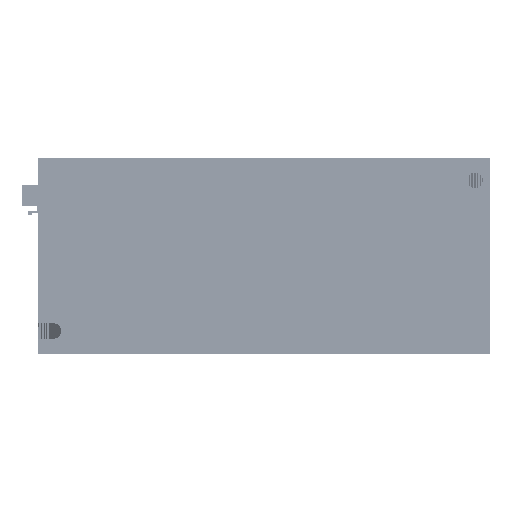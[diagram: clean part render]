
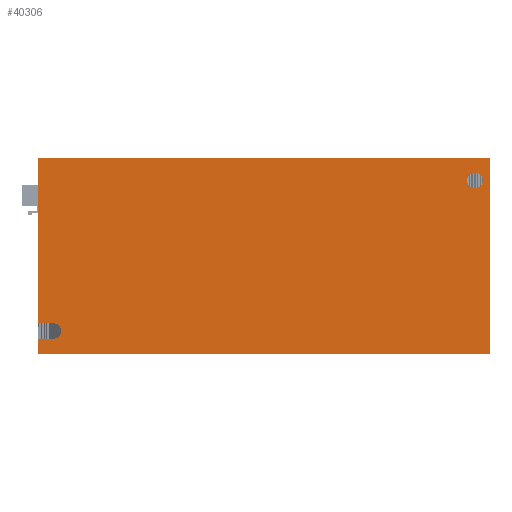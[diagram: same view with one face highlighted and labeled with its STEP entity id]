
A CAD part, top view. The second image highlights one B-rep face of the part: STEP entity #40306.
In plain terms, the highlighted planar face has unit normal (0, 0, 1).
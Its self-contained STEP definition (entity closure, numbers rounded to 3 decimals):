
#7941=DIRECTION('',(-1.,0.,0.));
#7942=VECTOR('',#7941,150.);
#7943=CARTESIAN_POINT('',(44.414,33.069,258.));
#7944=LINE('',#7943,#7942);
#10037=DIRECTION('',(0.,-1.,0.));
#10038=VECTOR('',#10037,65.);
#10039=CARTESIAN_POINT('',(44.414,33.069,258.));
#10040=LINE('',#10039,#10038);
#10041=CARTESIAN_POINT('',(-100.586,-24.431,258.));
#10042=DIRECTION('',(0.,0.,1.));
#10043=DIRECTION('',(0.,-1.,0.));
#10044=AXIS2_PLACEMENT_3D('',#10041,#10042,#10043);
#10046=CARTESIAN_POINT('',(-100.586,-24.431,258.));
#10047=DIRECTION('',(0.,0.,1.));
#10048=DIRECTION('',(1.,0.,0.));
#10049=AXIS2_PLACEMENT_3D('',#10046,#10047,#10048);
#10051=DIRECTION('',(-1.,0.,0.));
#10052=VECTOR('',#10051,5.);
#10053=CARTESIAN_POINT('',(-100.586,-21.831,258.));
#10054=LINE('',#10053,#10052);
#10055=DIRECTION('',(0.,1.,0.));
#10056=VECTOR('',#10055,54.9);
#10057=CARTESIAN_POINT('',(-105.586,-21.831,258.));
#10058=LINE('',#10057,#10056);
#10059=CARTESIAN_POINT('',(39.414,25.569,258.));
#10060=DIRECTION('',(0.,0.,1.));
#10061=DIRECTION('',(1.,0.,0.));
#10062=AXIS2_PLACEMENT_3D('',#10059,#10060,#10061);
#10064=CARTESIAN_POINT('',(39.414,25.569,258.));
#10065=DIRECTION('',(0.,0.,1.));
#10066=DIRECTION('',(-1.,0.,0.));
#10067=AXIS2_PLACEMENT_3D('',#10064,#10065,#10066);
#10069=DIRECTION('',(1.,0.,0.));
#10070=VECTOR('',#10069,150.);
#10071=CARTESIAN_POINT('',(-105.586,-31.931,258.));
#10072=LINE('',#10071,#10070);
#10129=DIRECTION('',(-1.,0.,0.));
#10130=VECTOR('',#10129,5.);
#10131=CARTESIAN_POINT('',(-100.586,-27.031,258.));
#10132=LINE('',#10131,#10130);
#10133=DIRECTION('',(0.,1.,0.));
#10134=VECTOR('',#10133,4.9);
#10135=CARTESIAN_POINT('',(-105.586,-31.931,258.));
#10136=LINE('',#10135,#10134);
#19399=CARTESIAN_POINT('',(-105.586,-21.831,258.));
#19400=CARTESIAN_POINT('',(-105.586,33.069,258.));
#19401=VERTEX_POINT('',#19399);
#19402=VERTEX_POINT('',#19400);
#19948=CARTESIAN_POINT('',(44.414,33.069,258.));
#19949=VERTEX_POINT('',#19948);
#19950=CARTESIAN_POINT('',(44.414,-31.931,258.));
#19951=VERTEX_POINT('',#19950);
#20539=CARTESIAN_POINT('',(-97.986,-24.431,258.));
#20540=VERTEX_POINT('',#20539);
#20541=CARTESIAN_POINT('',(-100.586,-27.031,258.));
#20542=VERTEX_POINT('',#20541);
#20543=CARTESIAN_POINT('',(-100.586,-21.831,258.));
#20544=VERTEX_POINT('',#20543);
#20545=CARTESIAN_POINT('',(-105.586,-27.031,258.));
#20546=VERTEX_POINT('',#20545);
#20547=CARTESIAN_POINT('',(-105.586,-31.931,258.));
#20548=VERTEX_POINT('',#20547);
#20549=CARTESIAN_POINT('',(42.014,25.569,258.));
#20550=CARTESIAN_POINT('',(36.814,25.569,258.));
#20551=VERTEX_POINT('',#20549);
#20552=VERTEX_POINT('',#20550);
#40278=CARTESIAN_POINT('',(-30.586,0.569,258.));
#40279=DIRECTION('',(0.,0.,1.));
#40280=DIRECTION('',(-1.,0.,0.));
#40281=AXIS2_PLACEMENT_3D('',#40278,#40279,#40280);
#40282=PLANE('',#40281);
#40283=ORIENTED_EDGE('',*,*,#37754,.F.);
#40284=ORIENTED_EDGE('',*,*,#29873,.T.);
#40286=ORIENTED_EDGE('',*,*,#40285,.F.);
#40288=ORIENTED_EDGE('',*,*,#40287,.T.);
#40290=ORIENTED_EDGE('',*,*,#40289,.F.);
#40292=ORIENTED_EDGE('',*,*,#40291,.T.);
#40294=ORIENTED_EDGE('',*,*,#40293,.T.);
#40296=ORIENTED_EDGE('',*,*,#40295,.T.);
#40297=ORIENTED_EDGE('',*,*,#26302,.T.);
#40298=EDGE_LOOP('',(#40283,#40284,#40286,#40288,#40290,#40292,#40294,#40296,
#40297));
#40299=FACE_OUTER_BOUND('',#40298,.F.);
#40301=ORIENTED_EDGE('',*,*,#40300,.T.);
#40303=ORIENTED_EDGE('',*,*,#40302,.T.);
#40304=EDGE_LOOP('',(#40301,#40303));
#40305=FACE_BOUND('',#40304,.F.);
#40306=ADVANCED_FACE('',(#40299,#40305),#40282,.T.);
#10045=CIRCLE('',#10044,2.6);
#10050=CIRCLE('',#10049,2.6);
#10063=CIRCLE('',#10062,2.6);
#10068=CIRCLE('',#10067,2.6);
#26302=EDGE_CURVE('',#19401,#19402,#10058,.T.);
#29873=EDGE_CURVE('',#19949,#19951,#10040,.T.);
#37754=EDGE_CURVE('',#19949,#19402,#7944,.T.);
#40285=EDGE_CURVE('',#20548,#19951,#10072,.T.);
#40287=EDGE_CURVE('',#20548,#20546,#10136,.T.);
#40289=EDGE_CURVE('',#20542,#20546,#10132,.T.);
#40291=EDGE_CURVE('',#20542,#20540,#10045,.T.);
#40293=EDGE_CURVE('',#20540,#20544,#10050,.T.);
#40295=EDGE_CURVE('',#20544,#19401,#10054,.T.);
#40300=EDGE_CURVE('',#20551,#20552,#10063,.T.);
#40302=EDGE_CURVE('',#20552,#20551,#10068,.T.);
